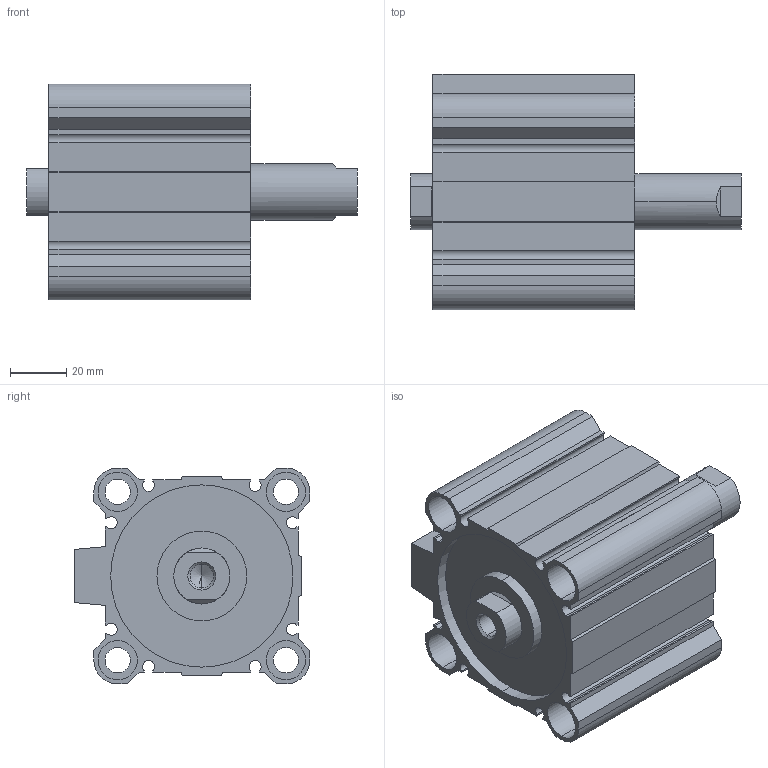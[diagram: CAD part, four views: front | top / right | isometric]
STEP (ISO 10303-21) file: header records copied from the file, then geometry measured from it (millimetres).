
FILE_DESCRIPTION (( 'STEP AP203' ), '1' );
FILE_NAME ('CCMB63-30F-P.STEP', '2020-08-05T11:46:58', ( '' ), ( '' ), 'SwSTEP 2.0', 'SolidWorks 2019', '' );
FILE_SCHEMA (( 'CONFIG_CONTROL_DESIGN' ));
Length unit declared in the file: millimetre
Products named in the file (1): CCMB63-30F-P
Bounding box: 118 x 84 x 77 mm (x, y, z)
Volume: 255802.4 mm3; surface area: 85049.1 mm2
Topology: 2 solids, 2 shells, 176 faces, 450 edges, 294 vertices
Faces by surface type: plane 90, cylinder 74, cone 12
Entity records: 5421 total; most frequent: DIRECTION 948, CARTESIAN_POINT 941, ORIENTED_EDGE 892, EDGE_CURVE 446, AXIS2_PLACEMENT_3D 333, VERTEX_POINT 294, LINE 282, VECTOR 282
